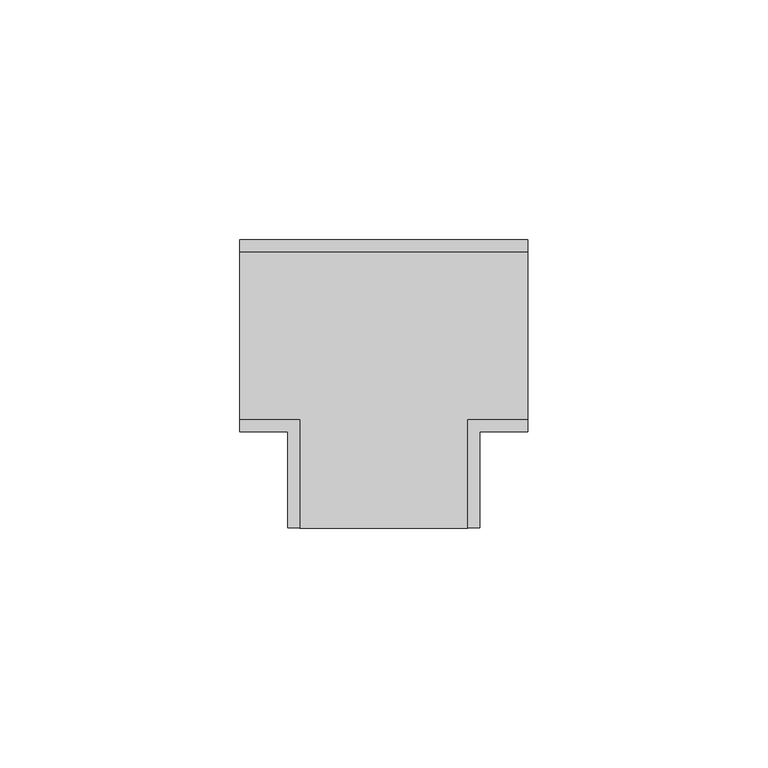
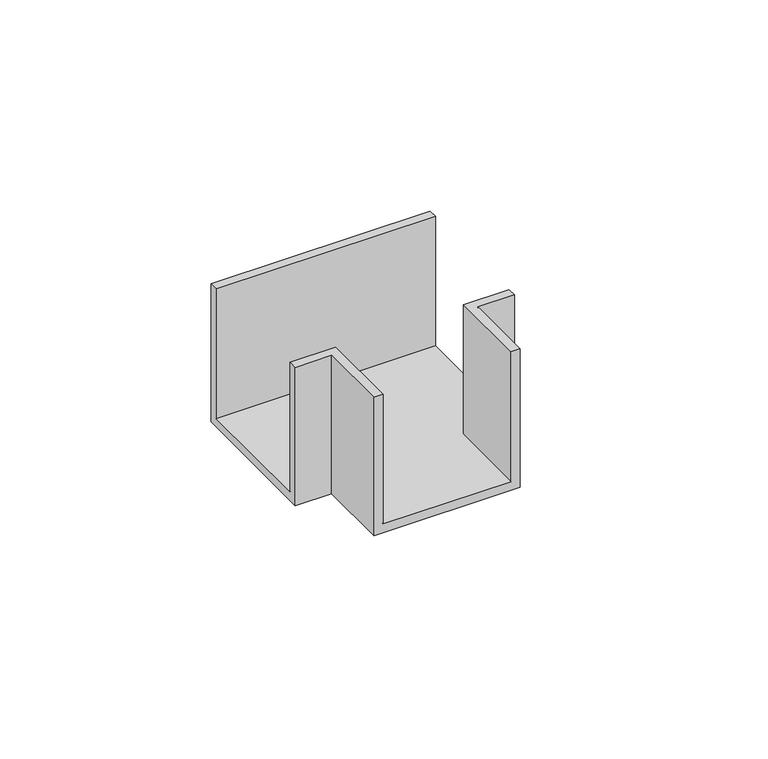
"""IFC4 building model written with IfcOpenShell, lengths in millimetres: cable carrier fitting geometry, КНС_ТройникNTAN_ILC_DKC : Тройник/отвод."""

import ifcopenshell
import ifcopenshell.guid

model = None  # the IFC model being written
_history = None  # IfcOwnerHistory: only IFC2X3 demands one
_inside = {}  # id of a spatial element -> (the spatial element, [elements in it])
_under = {}  # id of a project, library or spatial element -> (it, [spatial elements below it])
_declared = {}  # id of a project -> (the project, [libraries it declares])
_typed = {}  # id of a type object -> (the type object, [elements of that type])
_made_of = {}  # id of a material, layer set ... -> (it, [elements and type objects made of it])


def new_model(schema):
    """Start an empty IFC model of exactly this schema.

    Asked for "IFC4X3", IfcOpenShell would pick the latest addendum, in which some entities
    have other attributes; the version numbers below select the first issue.
    IFC2X3 requires an IfcOwnerHistory on every rooted entity: one is made here for all.
    """
    global model, _history
    if schema == "IFC4X3":
        model = ifcopenshell.file(schema_version=(4, 3, 0, 0))
    else:
        model = ifcopenshell.file(schema=schema)
    _inside.clear()
    _under.clear()
    _declared.clear()
    _typed.clear()
    _made_of.clear()
    _history = None
    if model.schema == "IFC2X3":
        org = make("IfcOrganization", Name="unknown")
        user = make(
            "IfcPersonAndOrganization",
            ThePerson=make("IfcPerson", FamilyName="unknown"),
            TheOrganization=org,
        )
        app = make(
            "IfcApplication",
            ApplicationDeveloper=org,
            Version="unknown",
            ApplicationFullName="unknown",
            ApplicationIdentifier="unknown",
        )
        _history = make(
            "IfcOwnerHistory",
            OwningUser=user,
            OwningApplication=app,
            ChangeAction="ADDED",
            CreationDate=0,
        )
    return model


def make(cls, **values):
    """One entity of the class cls with the attributes given. An attribute that is None is left unset."""
    return model.create_entity(
        cls, **{name: value for name, value in values.items() if value is not None}
    )


def rooted(cls, **values):
    """An entity with a GlobalId (a new one), such as an element, a storey or a relation."""
    return make(cls, GlobalId=ifcopenshell.guid.new(), OwnerHistory=_history, **values)


def si_unit(unit_type, name, prefix=None):
    """IfcSIUnit, for example si_unit("LENGTHUNIT", "METRE", prefix="MILLI")."""
    return make("IfcSIUnit", UnitType=unit_type, Prefix=prefix, Name=name)


def assignment(units):
    """IfcUnitAssignment: the units of a project."""
    return None if units is None else make("IfcUnitAssignment", Units=units)


def point(xyz):
    """IfcCartesianPoint."""
    return None if xyz is None else make("IfcCartesianPoint", Coordinates=xyz)


def direction(xyz):
    """IfcDirection."""
    return None if xyz is None else make("IfcDirection", DirectionRatios=xyz)


def frame(location, z_axis=None, x_axis=None):
    """IfcAxis2Placement3D, a coordinate frame: its origin and axes. An axis left out is left unset."""
    return make(
        "IfcAxis2Placement3D",
        Location=point(location),
        Axis=direction(z_axis),
        RefDirection=direction(x_axis),
    )


def origin():
    """The frame at (0, 0, 0) with its axes left unset."""
    return frame((0.0, 0.0, 0.0))


def place(relative_to, where):
    """IfcLocalPlacement: puts the frame where relative to a parent placement (None: the world)."""
    return make(
        "IfcLocalPlacement", PlacementRelTo=relative_to, RelativePlacement=where
    )


def context(
    kind, dimensions, precision=None, world=None, true_north=None, identifier=None
):
    """IfcGeometricRepresentationContext, for example the 3D "Model" context."""
    return make(
        "IfcGeometricRepresentationContext",
        ContextIdentifier=identifier,
        ContextType=kind,
        CoordinateSpaceDimension=dimensions,
        Precision=precision,
        WorldCoordinateSystem=world,
        TrueNorth=true_north,
    )


def project(units=None, contexts=None):
    """IfcProject with its units and contexts."""
    return rooted(
        "IfcProject",
        Name="project",
        RepresentationContexts=contexts,
        UnitsInContext=assignment(units),
    )


def spatial(cls, under=None, at=None, **own):
    """A site, building, storey or space (cls), placed at a placement, below another one or the project."""
    s = rooted(cls, ObjectPlacement=at, **own)
    if under is not None:
        _under.setdefault(under.id(), (under, []))[1].append(s)
    return s


def faces_of(points, faces, orient=None, outer=None):
    """IfcFace entities. A face is a list of loops; a loop is a list of indices into points, from 0.

    orient and outer hold one flag for each loop. By default every Orientation is true, the
    first loop of a face is its IfcFaceOuterBound and the others are IfcFaceBound.
    """
    made = []
    for i, loops in enumerate(faces):
        bounds = []
        for j, loop in enumerate(loops):
            is_outer = j == 0 if outer is None else outer[i][j]
            bounds.append(
                make(
                    "IfcFaceOuterBound" if is_outer else "IfcFaceBound",
                    Bound=make("IfcPolyLoop", Polygon=[points[k] for k in loop]),
                    Orientation=True if orient is None else orient[i][j],
                )
            )
        made.append(make("IfcFace", Bounds=bounds))
    return made


def faceted_brep(points, faces, orient=None, outer=None, voids=None):
    """IfcFacetedBrep: a solid bounded by flat faces; with voids (closed shells), ...WithVoids."""
    shared = [point(p) for p in points]
    hull = make("IfcClosedShell", CfsFaces=faces_of(shared, faces, orient, outer))
    if voids is None:
        return make("IfcFacetedBrep", Outer=hull)
    return make(
        "IfcFacetedBrepWithVoids",
        Outer=hull,
        Voids=[
            make(cls, CfsFaces=faces_of(shared, fs, o, b)) for cls, fs, o, b in voids
        ],
    )


def shape(context_of_items, identifier, shape_type, items):
    """IfcShapeRepresentation: the items that make up one representation, for example the "Body"."""
    return make(
        "IfcShapeRepresentation",
        ContextOfItems=context_of_items,
        RepresentationIdentifier=identifier,
        RepresentationType=shape_type,
        Items=items,
    )


def source(mapping_origin, context_of_items, identifier, shape_type, items):
    """IfcRepresentationMap: a shape defined once, which mapped items show again and again."""
    return make(
        "IfcRepresentationMap",
        MappingOrigin=mapping_origin,
        MappedRepresentation=shape(context_of_items, identifier, shape_type, items),
    )


def transform(
    local_origin,
    x_axis=None,
    y_axis=None,
    z_axis=None,
    scale=None,
    scale2=None,
    scale3=None,
    uniform=True,
):
    """IfcCartesianTransformationOperator3D, or its non-uniform kind. x_axis, y_axis, z_axis: its Axis1, 2, 3."""
    if uniform:
        return make(
            "IfcCartesianTransformationOperator3D",
            Axis1=direction(x_axis),
            Axis2=direction(y_axis),
            LocalOrigin=point(local_origin),
            Scale=scale,
            Axis3=direction(z_axis),
        )
    return make(
        "IfcCartesianTransformationOperator3DnonUniform",
        Axis1=direction(x_axis),
        Axis2=direction(y_axis),
        LocalOrigin=point(local_origin),
        Scale=scale,
        Axis3=direction(z_axis),
        Scale2=scale2,
        Scale3=scale3,
    )


def mapped(mapping_source, mapping_target):
    """IfcMappedItem: shows the shape of a source again, moved by a transform."""
    return make(
        "IfcMappedItem", MappingSource=mapping_source, MappingTarget=mapping_target
    )


def made_of(thing, what):
    """Note that an element or type object is made of a material, layer set ...; save() writes the relation."""
    if what is not None:
        _made_of.setdefault(what.id(), (what, []))[1].append(thing)
    return thing


def element(
    cls,
    number,
    at=None,
    inside=None,
    cuts=None,
    type_object=None,
    material=None,
    context=None,
    identifier="Body",
    shape_type=None,
    held_by="IfcProductDefinitionShape",
    body=None,
    shapes=None,
    **own,
):
    """One element of the class cls, such as IfcWall. Its Tag is "e" and its number.

    at: its placement. inside: the storey or other place that contains it. cuts: it is an
    opening in that element (IfcRelVoidsElement). A single representation is given by context,
    identifier, shape_type and body (its items); several are given by shapes. held_by: the class
    of the entity that holds the representations. save() writes the other relations.
    """
    e = rooted(cls, Tag="e%d" % number, ObjectPlacement=at, **own)
    if body is not None:
        shapes = [shape(context, identifier, shape_type, body)]
    if shapes is not None:
        e.Representation = make(held_by, Representations=shapes)
    if inside is not None:
        _inside.setdefault(inside.id(), (inside, []))[1].append(e)
    if cuts is not None:
        rooted(
            "IfcRelVoidsElement", RelatingBuildingElement=cuts, RelatedOpeningElement=e
        )
    if type_object is not None:
        _typed.setdefault(type_object.id(), (type_object, []))[1].append(e)
    return made_of(e, material)


def aggregate(whole, parts):
    """IfcRelAggregates: a whole, such as a stair, and the parts it consists of."""
    return rooted("IfcRelAggregates", RelatingObject=whole, RelatedObjects=parts)


def save(model, path):
    """Write the relations noted so far, then the file.

    IfcRelAggregates (storeys below a building ...), IfcRelContainedInSpatialStructure (elements
    in a storey), IfcRelDefinesByType, IfcRelAssociatesMaterial and IfcRelDeclares: one each for
    every whole, place, type object, material and project.
    """
    for whole, parts in _under.values():
        aggregate(whole, parts)
    for where, things in _inside.values():
        rooted(
            "IfcRelContainedInSpatialStructure",
            RelatedElements=things,
            RelatingStructure=where,
        )
    for kind, things in _typed.values():
        rooted("IfcRelDefinesByType", RelatedObjects=things, RelatingType=kind)
    for what, things in _made_of.values():
        rooted("IfcRelAssociatesMaterial", RelatedObjects=things, RelatingMaterial=what)
    for by, libraries in _declared.values():
        rooted("IfcRelDeclares", RelatingContext=by, RelatedDefinitions=libraries)
    model.write(path)


def cable_carrier_fitting_768868bd(model_context):
    return source(origin(), model_context, "Body", "Brep", [
        faceted_brep([(30.0, 17.5, -17.5), (-30.0, 17.5, -17.5), (-30.0, -17.5, -17.5), (-17.5, -17.5, -17.5), (-17.5, -40.0, -17.5), (17.5, -40.0, -17.5), (17.5, -17.5, -17.5), (30.0, -17.5, -17.5), (30.0, 20.0, -20.0), (30.0, -20.0, -20.0), (20.0, -20.0, -20.0), (20.0, -40.0, -20.0), (-20.0, -40.0, -20.0), (-20.0, -20.0, -20.0), (-30.0, -20.0, -20.0), (-30.0, 20.0, -20.0), (30.0, 20.0, 20.0), (30.0, 17.5, 20.0), (30.0, -17.5, 20.0), (30.0, -20.0, 20.0), (20.0, -20.0, 20.0), (20.0, -40.0, 20.0), (17.5, -40.0, 20.0), (-17.5, -40.0, 20.0), (-20.0, -40.0, 20.0), (-20.0, -20.0, 20.0), (-30.0, -20.0, 20.0), (-30.0, -17.5, 20.0), (-30.0, 17.5, 20.0), (-30.0, 20.0, 20.0), (17.5, -17.5, 20.0), (-17.5, -17.5, 20.0)], [[[0, 1, 2, 3, 4, 5, 6, 7]], [[8, 9, 10, 11, 12, 13, 14, 15]], [[8, 16, 17, 0, 7, 18, 19, 9]], [[19, 20, 10, 9]], [[20, 21, 11, 10]], [[21, 22, 5, 4, 23, 24, 12, 11]], [[24, 25, 13, 12]], [[25, 26, 14, 13]], [[26, 27, 2, 1, 28, 29, 15, 14]], [[29, 16, 8, 15]], [[20, 19, 18, 30, 22, 21]], [[25, 24, 23, 31, 27, 26]], [[29, 28, 17, 16]], [[31, 3, 2, 27]], [[23, 4, 3, 31]], [[30, 6, 5, 22]], [[18, 7, 6, 30]], [[28, 1, 0, 17]]]),
    ])


if __name__ == "__main__":
    model = new_model("IFC4")
    model_context = context("Model", 3, world=origin())
    ifc_project = project(units=[si_unit("LENGTHUNIT", "METRE", prefix="MILLI")], contexts=[model_context])
    site = spatial("IfcSite", under=ifc_project)
    building = spatial("IfcBuilding", under=site)
    placement = place(None, origin())
    cable_carrier_fitting_shape = cable_carrier_fitting_768868bd(model_context)
    element("IfcCableCarrierFitting", 1, ObjectType="КНС_ТройникNTAN_ILC_DKC : Тройник/отвод", at=placement, inside=building, context=model_context, shape_type="MappedRepresentation", body=[
        mapped(cable_carrier_fitting_shape, transform((0.0, 0.0, 0.0), x_axis=(1.0, 0.0, 0.0), y_axis=(0.0, 1.0, 0.0), z_axis=(0.0, 0.0, 1.0))),
    ])
    save(model, "model.ifc")
